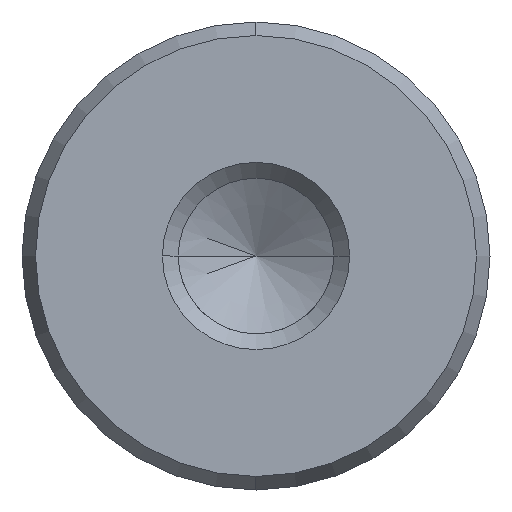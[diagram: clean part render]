
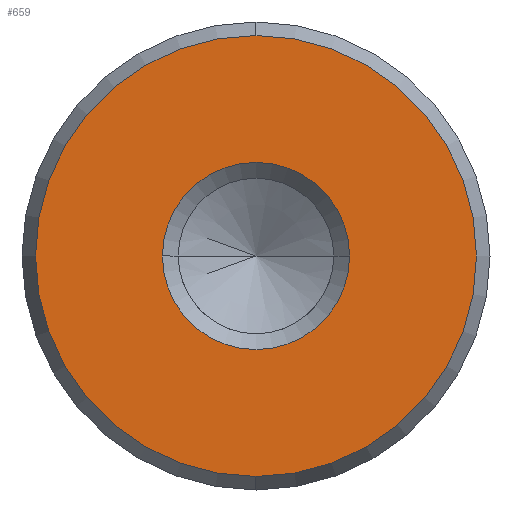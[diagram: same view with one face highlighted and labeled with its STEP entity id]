
A CAD part, left-side view. The second image highlights one B-rep face of the part: STEP entity #659.
In plain terms, the highlighted planar face has unit normal (-1, 0, 0).
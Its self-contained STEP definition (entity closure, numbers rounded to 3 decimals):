
#573=CARTESIAN_POINT('Vertex',(0.,0.,-9.423)) ;
#576=CARTESIAN_POINT('Axis2P3D Location',(0.,0.,0.)) ;
#580=CARTESIAN_POINT('Vertex',(0.,9.423,0.)) ;
#583=CARTESIAN_POINT('Axis2P3D Location',(0.,0.,0.)) ;
#587=CARTESIAN_POINT('Vertex',(0.,0.,9.423)) ;
#609=CARTESIAN_POINT('Axis2P3D Location',(0.,0.,0.)) ;
#613=CARTESIAN_POINT('Vertex',(0.,-9.423,0.)) ;
#616=CARTESIAN_POINT('Axis2P3D Location',(0.,0.,0.)) ;
#630=CARTESIAN_POINT('Axis2P3D Location',(0.,0.,0.)) ;
#641=CARTESIAN_POINT('Axis2P3D Location',(0.,0.,0.)) ;
#645=CARTESIAN_POINT('Vertex',(0.,4.,0.)) ;
#647=CARTESIAN_POINT('Vertex',(0.,-4.,0.)) ;
#650=CARTESIAN_POINT('Axis2P3D Location',(0.,0.,0.)) ;
#577=DIRECTION('Axis2P3D Direction',(1.,0.,-0.)) ;
#584=DIRECTION('Axis2P3D Direction',(1.,0.,-0.)) ;
#610=DIRECTION('Axis2P3D Direction',(1.,0.,-0.)) ;
#617=DIRECTION('Axis2P3D Direction',(1.,0.,-0.)) ;
#631=DIRECTION('Axis2P3D Direction',(1.,0.,-0.)) ;
#632=DIRECTION('Axis2P3D XDirection',(-0.,0.,-1.)) ;
#642=DIRECTION('Axis2P3D Direction',(1.,0.,-0.)) ;
#651=DIRECTION('Axis2P3D Direction',(1.,0.,-0.)) ;
#578=AXIS2_PLACEMENT_3D('Circle Axis2P3D',#576,#577,$) ;
#585=AXIS2_PLACEMENT_3D('Circle Axis2P3D',#583,#584,$) ;
#611=AXIS2_PLACEMENT_3D('Circle Axis2P3D',#609,#610,$) ;
#618=AXIS2_PLACEMENT_3D('Circle Axis2P3D',#616,#617,$) ;
#633=AXIS2_PLACEMENT_3D('Plane Axis2P3D',#630,#631,#632) ;
#643=AXIS2_PLACEMENT_3D('Circle Axis2P3D',#641,#642,$) ;
#652=AXIS2_PLACEMENT_3D('Circle Axis2P3D',#650,#651,$) ;
#636=ORIENTED_EDGE('',*,*,#582,.F.) ;
#637=ORIENTED_EDGE('',*,*,#620,.F.) ;
#638=ORIENTED_EDGE('',*,*,#615,.F.) ;
#639=ORIENTED_EDGE('',*,*,#589,.F.) ;
#656=ORIENTED_EDGE('',*,*,#649,.T.) ;
#657=ORIENTED_EDGE('',*,*,#654,.T.) ;
#658=FACE_BOUND('',#655,.T.) ;
#659=ADVANCED_FACE('720-20x140',(#640,#658),#634,.F.) ;
#579=CIRCLE('generated circle',#578,9.423) ;
#586=CIRCLE('generated circle',#585,9.423) ;
#612=CIRCLE('generated circle',#611,9.423) ;
#619=CIRCLE('generated circle',#618,9.423) ;
#644=CIRCLE('generated circle',#643,4.) ;
#653=CIRCLE('generated circle',#652,4.) ;
#582=EDGE_CURVE('',#574,#581,#579,.T.) ;
#589=EDGE_CURVE('',#581,#588,#586,.T.) ;
#615=EDGE_CURVE('',#588,#614,#612,.T.) ;
#620=EDGE_CURVE('',#614,#574,#619,.T.) ;
#649=EDGE_CURVE('',#646,#648,#644,.T.) ;
#654=EDGE_CURVE('',#648,#646,#653,.T.) ;
#635=EDGE_LOOP('',(#636,#637,#638,#639)) ;
#655=EDGE_LOOP('',(#656,#657)) ;
#640=FACE_OUTER_BOUND('',#635,.T.) ;
#634=PLANE('Plane',#633) ;
#574=VERTEX_POINT('',#573) ;
#581=VERTEX_POINT('',#580) ;
#588=VERTEX_POINT('',#587) ;
#614=VERTEX_POINT('',#613) ;
#646=VERTEX_POINT('',#645) ;
#648=VERTEX_POINT('',#647) ;
